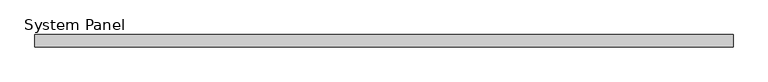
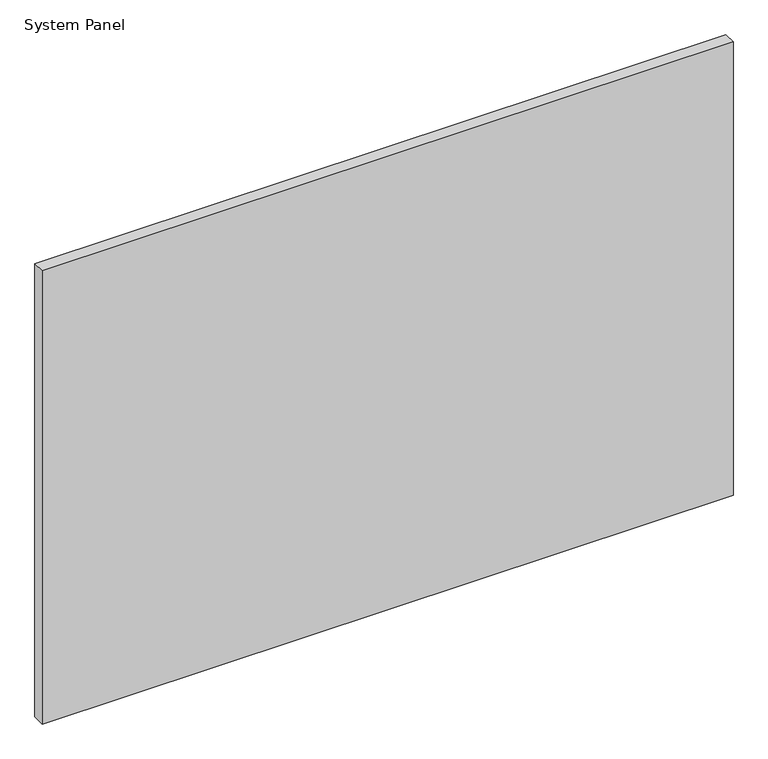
"""IFC4 building model written with IfcOpenShell, lengths in millimetres: plate geometry, System Panel : Glazed - ACMP (AL-1)."""

from ifc_helpers import new_model, si_unit, origin, origin_with_axes, place, context, project, spatial, polyline, outline, extrude, source, transform, mapped, element, save


def system_panel_49739326(model_context):
    return source(origin(), model_context, "Body", "SweptSolid", [
        extrude(outline(polyline([(714.375, 0.0), (-714.375, 0.0), (-714.375, 25.4), (714.375, 25.4), (714.375, 0.0)])), origin_with_axes(), (0.0, 0.0, 1.0), 990.5999994),
    ])


if __name__ == "__main__":
    model = new_model("IFC4")
    model_context = context("Model", 3, world=origin())
    ifc_project = project(units=[si_unit("LENGTHUNIT", "METRE", prefix="MILLI")], contexts=[model_context])
    site = spatial("IfcSite", under=ifc_project)
    building = spatial("IfcBuilding", under=site)
    placement = place(None, origin())
    system_panel_shape = system_panel_49739326(model_context)
    element("IfcPlate", 1, ObjectType="System Panel : Glazed - ACMP (AL-1)", at=placement, inside=building, context=model_context, shape_type="MappedRepresentation", body=[
        mapped(system_panel_shape, transform((0.0, 0.0, 0.0), x_axis=(1.0, 0.0, 0.0), y_axis=(0.0, 1.0, 0.0), z_axis=(0.0, 0.0, 1.0))),
    ])
    save(model, "model.ifc")
